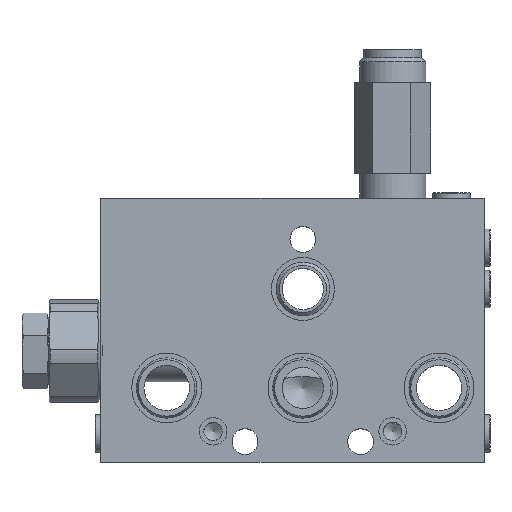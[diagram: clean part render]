
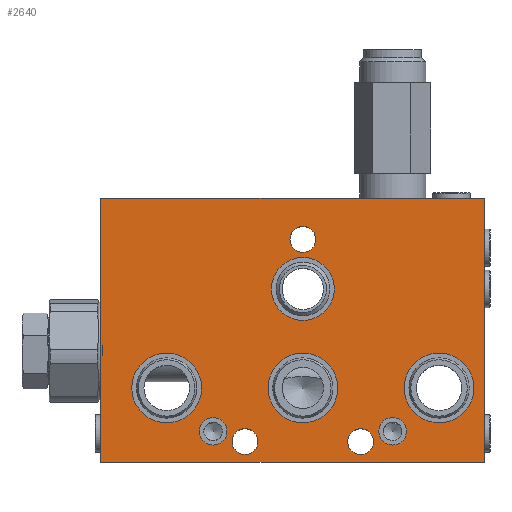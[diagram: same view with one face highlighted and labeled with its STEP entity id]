
A CAD part, top view. The second image highlights one B-rep face of the part: STEP entity #2640.
In plain terms, the highlighted planar face has unit normal (0, 0, 1).
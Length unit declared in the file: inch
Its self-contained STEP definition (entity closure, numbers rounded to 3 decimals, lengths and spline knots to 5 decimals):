
#1919=CARTESIAN_POINT('',(0.058,1.687,1.875));
#1920=VERTEX_POINT('',#1919);
#1921=CARTESIAN_POINT('',(0.028,1.687,1.875));
#1922=VERTEX_POINT('',#1921);
#1923=CARTESIAN_POINT('',(0.058,1.687,1.875));
#1924=DIRECTION('',(-1.0,0.0,0.0));
#1925=VECTOR('',#1924,0.03);
#1926=LINE('',#1923,#1925);
#1927=EDGE_CURVE('',#1920,#1922,#1926,.T.);
#1988=CARTESIAN_POINT('',(0.058,1.687,1.875));
#1989=DIRECTION('',(-1.0,0.0,0.0));
#1990=VECTOR('',#1989,0.03);
#1991=LINE('',#1988,#1990);
#1992=EDGE_CURVE('',#1920,#1922,#1991,.T.);
#2071=CARTESIAN_POINT('',(0.028,4.0,1.875));
#2072=VERTEX_POINT('',#2071);
#2073=CARTESIAN_POINT('',(0.028,4.0,1.875));
#2074=DIRECTION('',(0.0,-1.0,0.0));
#2075=VECTOR('',#2074,2.313);
#2076=LINE('',#2073,#2075);
#2077=EDGE_CURVE('',#2072,#1922,#2076,.T.);
#2110=CARTESIAN_POINT('',(0.028,0.,1.875));
#2111=VERTEX_POINT('',#2110);
#2118=CARTESIAN_POINT('',(0.028,1.687,1.875));
#2119=DIRECTION('',(0.0,-1.0,0.0));
#2120=VECTOR('',#2119,1.687);
#2121=LINE('',#2118,#2120);
#2122=EDGE_CURVE('',#1922,#2111,#2121,.T.);
#2492=CARTESIAN_POINT('',(3.618,1.125,1.875));
#2493=VERTEX_POINT('',#2492);
#2494=CARTESIAN_POINT('',(3.09,1.125,1.875));
#2495=DIRECTION('',(0.0,0.0,-1.0));
#2496=DIRECTION('',(-1.0,0.0,0.0));
#2497=AXIS2_PLACEMENT_3D('',#2494,#2495,#2496);
#2498=CIRCLE('',#2497,0.528);
#2499=EDGE_CURVE('',#2493,#2493,#2498,.T.);
#2516=CARTESIAN_POINT('',(0.,4.0,1.875));
#2517=DIRECTION('',(0.0,0.0,-1.0));
#2518=DIRECTION('',(-1.0,0.0,0.0));
#2519=AXIS2_PLACEMENT_3D('',#2516,#2517,#2518);
#2520=PLANE('',#2519);
#2521=ORIENTED_EDGE('',*,*,#2077,.T.);
#2522=ORIENTED_EDGE('',*,*,#1992,.F.);
#2523=ORIENTED_EDGE('',*,*,#1927,.T.);
#2524=ORIENTED_EDGE('',*,*,#2122,.T.);
#2525=CARTESIAN_POINT('',(5.84,0.,1.875));
#2526=VERTEX_POINT('',#2525);
#2527=CARTESIAN_POINT('',(5.84,0.,1.875));
#2528=DIRECTION('',(-1.0,0.0,0.0));
#2529=VECTOR('',#2528,5.812);
#2530=LINE('',#2527,#2529);
#2531=EDGE_CURVE('',#2526,#2111,#2530,.T.);
#2532=ORIENTED_EDGE('',*,*,#2531,.F.);
#2533=CARTESIAN_POINT('',(5.84,4.0,1.875));
#2534=VERTEX_POINT('',#2533);
#2535=CARTESIAN_POINT('',(5.84,0.,1.875));
#2536=DIRECTION('',(0.0,1.0,0.0));
#2537=VECTOR('',#2536,4.);
#2538=LINE('',#2535,#2537);
#2539=EDGE_CURVE('',#2526,#2534,#2538,.T.);
#2540=ORIENTED_EDGE('',*,*,#2539,.T.);
#2541=CARTESIAN_POINT('',(0.028,4.0,1.875));
#2542=DIRECTION('',(1.0,0.0,0.0));
#2543=VECTOR('',#2542,5.812);
#2544=LINE('',#2541,#2543);
#2545=EDGE_CURVE('',#2072,#2534,#2544,.T.);
#2546=ORIENTED_EDGE('',*,*,#2545,.F.);
#2547=EDGE_LOOP('',(#2521,#2522,#2523,#2524,#2532,#2540,#2546));
#2548=FACE_OUTER_BOUND('',#2547,.T.);
#2549=CARTESIAN_POINT('',(1.5555,1.125,1.875));
#2550=VERTEX_POINT('',#2549);
#2551=CARTESIAN_POINT('',(1.0275,1.125,1.875));
#2552=DIRECTION('',(0.0,0.0,-1.0));
#2553=DIRECTION('',(-1.0,0.0,0.0));
#2554=AXIS2_PLACEMENT_3D('',#2551,#2552,#2553);
#2555=CIRCLE('',#2554,0.528);
#2556=EDGE_CURVE('',#2550,#2550,#2555,.T.);
#2557=ORIENTED_EDGE('',*,*,#2556,.T.);
#2558=EDGE_LOOP('',(#2557));
#2559=FACE_BOUND('',#2558,.T.);
#2560=CARTESIAN_POINT('',(3.5665,2.625,1.875));
#2561=VERTEX_POINT('',#2560);
#2562=CARTESIAN_POINT('',(3.09,2.625,1.875));
#2563=DIRECTION('',(0.0,0.0,-1.0));
#2564=DIRECTION('',(-1.0,0.0,0.0));
#2565=AXIS2_PLACEMENT_3D('',#2562,#2563,#2564);
#2566=CIRCLE('',#2565,0.4765);
#2567=EDGE_CURVE('',#2561,#2561,#2566,.T.);
#2568=ORIENTED_EDGE('',*,*,#2567,.T.);
#2569=EDGE_LOOP('',(#2568));
#2570=FACE_BOUND('',#2569,.T.);
#2571=CARTESIAN_POINT('',(1.9395,0.469,1.875));
#2572=VERTEX_POINT('',#2571);
#2573=CARTESIAN_POINT('',(1.731,0.469,1.875));
#2574=DIRECTION('',(0.0,0.0,-1.0));
#2575=DIRECTION('',(1.0,0.0,0.0));
#2576=AXIS2_PLACEMENT_3D('',#2573,#2574,#2575);
#2577=CIRCLE('',#2576,0.2085);
#2578=EDGE_CURVE('',#2572,#2572,#2577,.T.);
#2579=ORIENTED_EDGE('',*,*,#2578,.T.);
#2580=EDGE_LOOP('',(#2579));
#2581=FACE_BOUND('',#2580,.T.);
#2582=CARTESIAN_POINT('',(4.6575,0.469,1.875));
#2583=VERTEX_POINT('',#2582);
#2584=CARTESIAN_POINT('',(4.449,0.469,1.875));
#2585=DIRECTION('',(0.0,0.0,-1.0));
#2586=DIRECTION('',(1.0,0.0,0.0));
#2587=AXIS2_PLACEMENT_3D('',#2584,#2585,#2586);
#2588=CIRCLE('',#2587,0.2085);
#2589=EDGE_CURVE('',#2583,#2583,#2588,.T.);
#2590=ORIENTED_EDGE('',*,*,#2589,.T.);
#2591=EDGE_LOOP('',(#2590));
#2592=FACE_BOUND('',#2591,.T.);
#2593=CARTESIAN_POINT('',(2.4105,0.313,1.875));
#2594=VERTEX_POINT('',#2593);
#2595=CARTESIAN_POINT('',(2.215,0.313,1.875));
#2596=DIRECTION('',(0.0,0.0,-1.0));
#2597=DIRECTION('',(1.0,0.0,0.0));
#2598=AXIS2_PLACEMENT_3D('',#2595,#2596,#2597);
#2599=CIRCLE('',#2598,0.1955);
#2600=EDGE_CURVE('',#2594,#2594,#2599,.T.);
#2601=ORIENTED_EDGE('',*,*,#2600,.T.);
#2602=EDGE_LOOP('',(#2601));
#2603=FACE_BOUND('',#2602,.T.);
#2604=CARTESIAN_POINT('',(3.2855,3.375,1.875));
#2605=VERTEX_POINT('',#2604);
#2606=CARTESIAN_POINT('',(3.09,3.375,1.875));
#2607=DIRECTION('',(0.0,0.0,-1.0));
#2608=DIRECTION('',(1.0,0.0,0.0));
#2609=AXIS2_PLACEMENT_3D('',#2606,#2607,#2608);
#2610=CIRCLE('',#2609,0.1955);
#2611=EDGE_CURVE('',#2605,#2605,#2610,.T.);
#2612=ORIENTED_EDGE('',*,*,#2611,.T.);
#2613=EDGE_LOOP('',(#2612));
#2614=FACE_BOUND('',#2613,.T.);
#2615=CARTESIAN_POINT('',(4.1605,0.313,1.875));
#2616=VERTEX_POINT('',#2615);
#2617=CARTESIAN_POINT('',(3.965,0.313,1.875));
#2618=DIRECTION('',(0.0,0.0,-1.0));
#2619=DIRECTION('',(1.0,0.0,0.0));
#2620=AXIS2_PLACEMENT_3D('',#2617,#2618,#2619);
#2621=CIRCLE('',#2620,0.1955);
#2622=EDGE_CURVE('',#2616,#2616,#2621,.T.);
#2623=ORIENTED_EDGE('',*,*,#2622,.T.);
#2624=EDGE_LOOP('',(#2623));
#2625=FACE_BOUND('',#2624,.T.);
#2626=CARTESIAN_POINT('',(5.6805,1.125,1.875));
#2627=VERTEX_POINT('',#2626);
#2628=CARTESIAN_POINT('',(5.1525,1.125,1.875));
#2629=DIRECTION('',(0.0,0.0,-1.0));
#2630=DIRECTION('',(-1.0,0.0,0.0));
#2631=AXIS2_PLACEMENT_3D('',#2628,#2629,#2630);
#2632=CIRCLE('',#2631,0.528);
#2633=EDGE_CURVE('',#2627,#2627,#2632,.T.);
#2634=ORIENTED_EDGE('',*,*,#2633,.T.);
#2635=EDGE_LOOP('',(#2634));
#2636=FACE_BOUND('',#2635,.T.);
#2637=ORIENTED_EDGE('',*,*,#2499,.T.);
#2638=EDGE_LOOP('',(#2637));
#2639=FACE_BOUND('',#2638,.T.);
#2640=ADVANCED_FACE('',(#2548,#2559,#2570,#2581,#2592,#2603,#2614,#2625,#2636,#2639),#2520,.F.);
